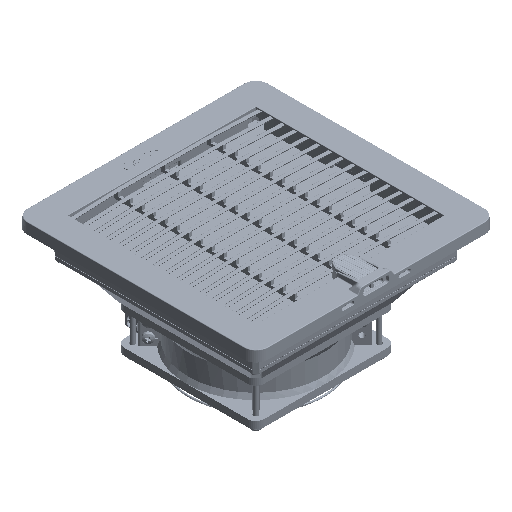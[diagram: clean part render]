
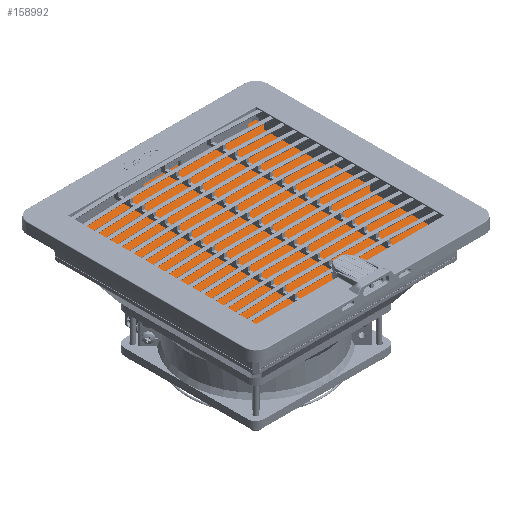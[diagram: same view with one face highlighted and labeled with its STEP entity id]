
A CAD part, isometric view. The second image highlights one B-rep face of the part: STEP entity #158992.
In plain terms, the highlighted planar face has unit normal (0, 0, 1).
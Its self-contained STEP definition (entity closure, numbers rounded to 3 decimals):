
#2957 = DIRECTION ( 'NONE',  ( -1., 0., 0. ) ) ;
#6442 = AXIS2_PLACEMENT_3D ( 'NONE', #187649, #206621, #50324 ) ;
#11510 = CARTESIAN_POINT ( 'NONE',  ( -84., -84., 10. ) ) ;
#19580 = ORIENTED_EDGE ( 'NONE', *, *, #265409, .T. ) ;
#31900 = VERTEX_POINT ( 'NONE', #287385 ) ;
#33427 = CARTESIAN_POINT ( 'NONE',  ( 84., 82.5, 10. ) ) ;
#39306 = ORIENTED_EDGE ( 'NONE', *, *, #99860, .T. ) ;
#40305 = VERTEX_POINT ( 'NONE', #64738 ) ;
#40834 = CARTESIAN_POINT ( 'NONE',  ( -82.5, 84., 10. ) ) ;
#42468 = CIRCLE ( 'NONE', #233722, 1.5 ) ;
#50324 = DIRECTION ( 'NONE',  ( -1., 0., 0. ) ) ;
#55827 = CIRCLE ( 'NONE', #93084, 1.5 ) ;
#55967 = EDGE_CURVE ( 'NONE', #142795, #285671, #42468, .T. ) ;
#57345 = EDGE_LOOP ( 'NONE', ( #190249, #122074, #232644, #154233, #39306, #71706, #19580, #118086 ) ) ;
#57514 = VECTOR ( 'NONE', #239875, 1000. ) ;
#60724 = FACE_OUTER_BOUND ( 'NONE', #57345, .T. ) ;
#63434 = EDGE_CURVE ( 'NONE', #40305, #218224, #90194, .T. ) ;
#64738 = CARTESIAN_POINT ( 'NONE',  ( -84., -82.5, 10. ) ) ;
#70847 = EDGE_CURVE ( 'NONE', #285671, #226193, #214856, .T. ) ;
#71706 = ORIENTED_EDGE ( 'NONE', *, *, #63434, .T. ) ;
#72934 = DIRECTION ( 'NONE',  ( 0., 0., 1. ) ) ;
#72972 = DIRECTION ( 'NONE',  ( 0., 1., 0. ) ) ;
#74322 = CARTESIAN_POINT ( 'NONE',  ( -82.5, 82.5, 10. ) ) ;
#78888 = VERTEX_POINT ( 'NONE', #285548 ) ;
#79075 = AXIS2_PLACEMENT_3D ( 'NONE', #190867, #281262, #103132 ) ;
#80053 = LINE ( 'NONE', #11510, #286572 ) ;
#90194 = CIRCLE ( 'NONE', #6442, 1.5 ) ;
#93084 = AXIS2_PLACEMENT_3D ( 'NONE', #238720, #104412, #129219 ) ;
#93479 = CARTESIAN_POINT ( 'NONE',  ( 84., -84., 10. ) ) ;
#95367 = CARTESIAN_POINT ( 'NONE',  ( 82.5, 84., 10. ) ) ;
#99860 = EDGE_CURVE ( 'NONE', #169603, #40305, #171396, .T. ) ;
#103132 = DIRECTION ( 'NONE',  ( -1., 0., 0. ) ) ;
#104412 = DIRECTION ( 'NONE',  ( 0., 0., 1. ) ) ;
#118086 = ORIENTED_EDGE ( 'NONE', *, *, #125085, .T. ) ;
#122074 = ORIENTED_EDGE ( 'NONE', *, *, #55967, .T. ) ;
#122902 = DIRECTION ( 'NONE',  ( -1., 0., 0. ) ) ;
#124355 = CARTESIAN_POINT ( 'NONE',  ( -84., 84., 10. ) ) ;
#125085 = EDGE_CURVE ( 'NONE', #31900, #78888, #55827, .T. ) ;
#129219 = DIRECTION ( 'NONE',  ( -1., 0., 0. ) ) ;
#142795 = VERTEX_POINT ( 'NONE', #33427 ) ;
#153832 = CARTESIAN_POINT ( 'NONE',  ( -84., 82.5, 10. ) ) ;
#154233 = ORIENTED_EDGE ( 'NONE', *, *, #258748, .T. ) ;
#158992 = ADVANCED_FACE ( 'NONE', ( #60724 ), #238867, .F. ) ;
#159952 = CIRCLE ( 'NONE', #266986, 1.5 ) ;
#167801 = DIRECTION ( 'NONE',  ( 1., 0., 0. ) ) ;
#169603 = VERTEX_POINT ( 'NONE', #153832 ) ;
#171396 = LINE ( 'NONE', #261772, #57514 ) ;
#187649 = CARTESIAN_POINT ( 'NONE',  ( -82.5, -82.5, 10. ) ) ;
#190249 = ORIENTED_EDGE ( 'NONE', *, *, #201186, .T. ) ;
#190867 = CARTESIAN_POINT ( 'NONE',  ( 0., 0., 10. ) ) ;
#201186 = EDGE_CURVE ( 'NONE', #78888, #142795, #249697, .T. ) ;
#203225 = VECTOR ( 'NONE', #122902, 1000. ) ;
#206621 = DIRECTION ( 'NONE',  ( 0., 0., 1. ) ) ;
#207279 = DIRECTION ( 'NONE',  ( -1., 0., 0. ) ) ;
#214856 = LINE ( 'NONE', #124355, #203225 ) ;
#215557 = CARTESIAN_POINT ( 'NONE',  ( -82.5, -84., 10. ) ) ;
#218224 = VERTEX_POINT ( 'NONE', #215557 ) ;
#226193 = VERTEX_POINT ( 'NONE', #40834 ) ;
#231532 = VECTOR ( 'NONE', #72972, 1000. ) ;
#232644 = ORIENTED_EDGE ( 'NONE', *, *, #70847, .T. ) ;
#233722 = AXIS2_PLACEMENT_3D ( 'NONE', #273007, #72934, #2957 ) ;
#238720 = CARTESIAN_POINT ( 'NONE',  ( 82.5, -82.5, 10. ) ) ;
#238867 = PLANE ( 'NONE',  #79075 ) ;
#239875 = DIRECTION ( 'NONE',  ( 0., -1., 0. ) ) ;
#249697 = LINE ( 'NONE', #93479, #231532 ) ;
#256817 = DIRECTION ( 'NONE',  ( 0., 0., 1. ) ) ;
#258748 = EDGE_CURVE ( 'NONE', #226193, #169603, #159952, .T. ) ;
#261772 = CARTESIAN_POINT ( 'NONE',  ( -84., -84., 10. ) ) ;
#265409 = EDGE_CURVE ( 'NONE', #218224, #31900, #80053, .T. ) ;
#266986 = AXIS2_PLACEMENT_3D ( 'NONE', #74322, #256817, #207279 ) ;
#273007 = CARTESIAN_POINT ( 'NONE',  ( 82.5, 82.5, 10. ) ) ;
#281262 = DIRECTION ( 'NONE',  ( 0., 0., -1. ) ) ;
#285548 = CARTESIAN_POINT ( 'NONE',  ( 84., -82.5, 10. ) ) ;
#285671 = VERTEX_POINT ( 'NONE', #95367 ) ;
#286572 = VECTOR ( 'NONE', #167801, 1000. ) ;
#287385 = CARTESIAN_POINT ( 'NONE',  ( 82.5, -84., 10. ) ) ;
